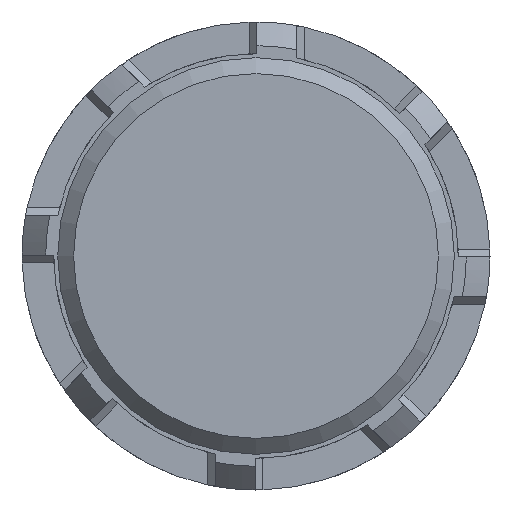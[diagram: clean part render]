
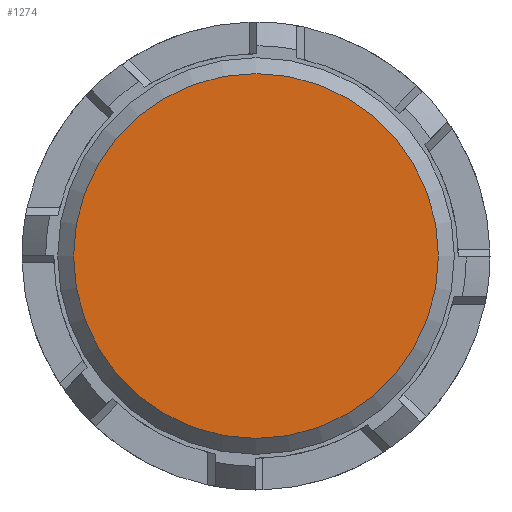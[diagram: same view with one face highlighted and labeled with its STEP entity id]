
A CAD part, front view. The second image highlights one B-rep face of the part: STEP entity #1274.
In plain terms, the highlighted planar face has unit normal (0, -1, 0).
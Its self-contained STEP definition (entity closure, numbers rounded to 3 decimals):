
#90=CIRCLE('',#1439,2.3);
#164=FACE_OUTER_BOUND('',#232,.T.);
#232=EDGE_LOOP('',(#1101));
#580=VERTEX_POINT('',#2238);
#765=EDGE_CURVE('',#580,#580,#90,.T.);
#1101=ORIENTED_EDGE('',*,*,#765,.F.);
#1213=PLANE('',#1442);
#1274=ADVANCED_FACE('',(#164),#1213,.T.);
#1439=AXIS2_PLACEMENT_3D('',#2239,#1820,#1821);
#1442=AXIS2_PLACEMENT_3D('',#2245,#1827,#1828);
#1820=DIRECTION('center_axis',(0.,1.,0.));
#1821=DIRECTION('ref_axis',(-1.,0.,0.));
#1827=DIRECTION('center_axis',(0.,-1.,0.));
#1828=DIRECTION('ref_axis',(0.,0.,-1.));
#2238=CARTESIAN_POINT('',(2.3,0.,0.));
#2239=CARTESIAN_POINT('Origin',(0.,0.,0.));
#2245=CARTESIAN_POINT('Origin',(0.,0.,0.));
